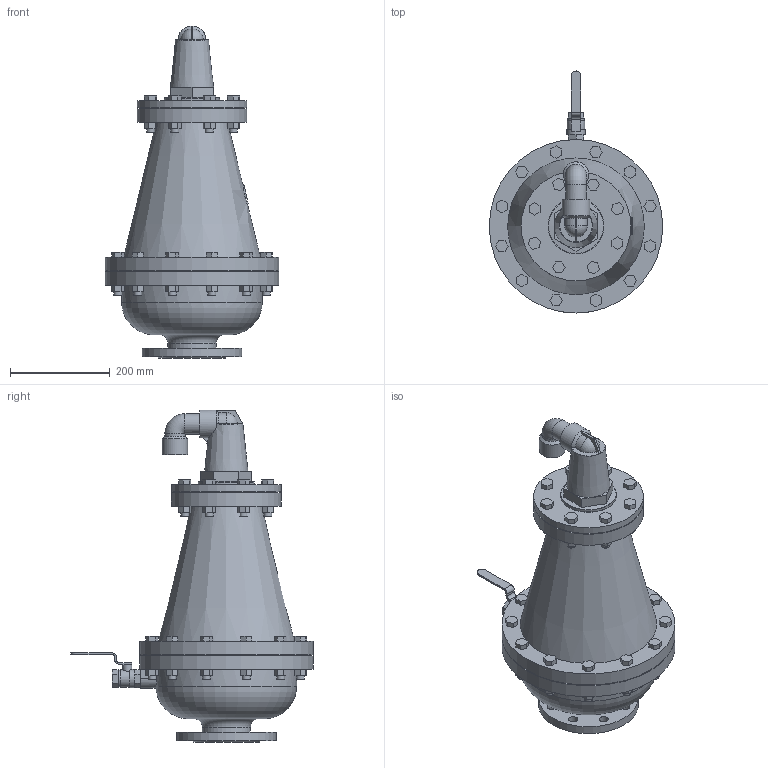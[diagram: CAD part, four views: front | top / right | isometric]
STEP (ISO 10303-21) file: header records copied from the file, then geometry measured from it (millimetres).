
FILE_DESCRIPTION(('STEP AP203'), '1');
FILE_NAME('A10FK_Dn80_左泱眄', '', ('UNSPECIFIED'), ('UNSPECIFIED'), 'ASCON STEP Converter 1.6', 'ASCON Math Kernel', '');
FILE_SCHEMA(('CONFIG_CONTROL_DESIGN'));
Length unit declared in the file: millimetre
Bounding box: 348 x 485.67 x 666 mm (x, y, z)
Volume: 7744578.5 mm3; surface area: 1148653.4 mm2
Topology: 1 solids, 2 shells, 603 faces, 1505 edges, 984 vertices
Faces by surface type: plane 472, cylinder 89, cone 35, torus 5, sphere 2
Full cylindrical faces by diameter (mm): 16 x20, 18 x9, 18.5 x1, 33 x1, 35 x1, 37 x1, 41 x2, 43 x1, 51 x1, 56 x1, 80 x1, 86 x1, 97 x1, 110 x1, 112 x1, 200 x1, 220 x2, 348 x2
Entity records: 23707 total; most frequent: CARTESIAN_POINT 4638, ORIENTED_EDGE 2832, DIRECTION 2808, EDGE_CURVE 1416, LINE 1136, VECTOR 1136, VERTEX_POINT 983, AXIS2_PLACEMENT_3D 836
